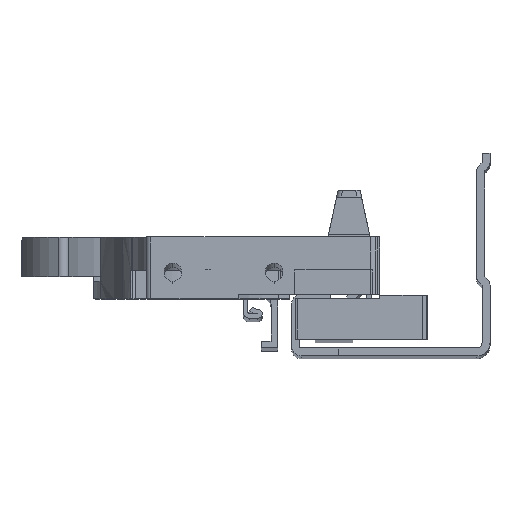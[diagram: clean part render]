
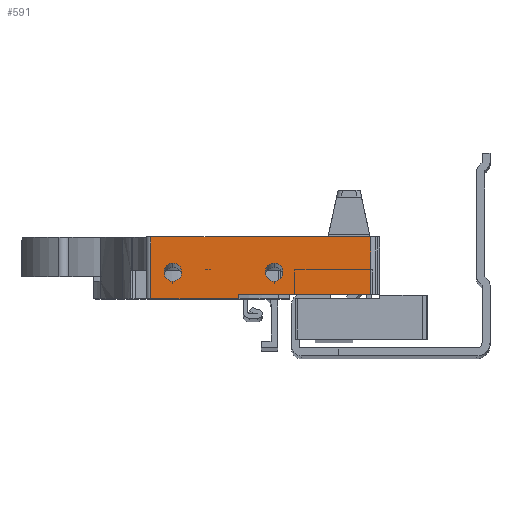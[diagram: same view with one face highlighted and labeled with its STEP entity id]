
A CAD part, top view. The second image highlights one B-rep face of the part: STEP entity #591.
In plain terms, the highlighted planar face has unit normal (0, 0, 1) as drawn and (0, -1, 0) by its records, which use the part's own axes.
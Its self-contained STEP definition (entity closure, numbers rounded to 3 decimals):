
#25 = EDGE_CURVE ( 'NONE', #13096, #6609, #15252, .T. ) ;
#339 = ORIENTED_EDGE ( 'NONE', *, *, #8084, .T. ) ;
#591 = ADVANCED_FACE ( 'NONE', ( #10625, #3837, #9348 ), #16149, .T. ) ;
#919 = EDGE_CURVE ( 'NONE', #6646, #6741, #3228, .T. ) ;
#984 = ORIENTED_EDGE ( 'NONE', *, *, #16730, .T. ) ;
#1433 = ORIENTED_EDGE ( 'NONE', *, *, #14022, .T. ) ;
#1455 = CARTESIAN_POINT ( 'NONE',  ( 176.866, 93.984, 0. ) ) ;
#1991 = VECTOR ( 'NONE', #16680, 1000. ) ;
#2100 = VERTEX_POINT ( 'NONE', #16092 ) ;
#2241 = EDGE_CURVE ( 'NONE', #9613, #6741, #16446, .T. ) ;
#2455 = CARTESIAN_POINT ( 'NONE',  ( 154.987, 93.984, -5.929 ) ) ;
#2621 = CARTESIAN_POINT ( 'NONE',  ( 154.987, 93.984, -5.929 ) ) ;
#3143 = ORIENTED_EDGE ( 'NONE', *, *, #12735, .T. ) ;
#3176 = LINE ( 'NONE', #15469, #14714 ) ;
#3196 = CARTESIAN_POINT ( 'NONE',  ( 126.987, 93.984, -14. ) ) ;
#3228 = LINE ( 'NONE', #14543, #17308 ) ;
#3587 =( BOUNDED_CURVE ( )  B_SPLINE_CURVE ( 3, ( #14663, #6601, #16358, #2621 ),
 .UNSPECIFIED., .F., .F. ) 
 B_SPLINE_CURVE_WITH_KNOTS ( ( 4, 4 ),
 ( 0., 3.142 ),
 .UNSPECIFIED. ) 
 CURVE ( )  GEOMETRIC_REPRESENTATION_ITEM ( )  RATIONAL_B_SPLINE_CURVE ( ( 1., 0.333, 0.333, 1. ) ) 
 REPRESENTATION_ITEM ( '' )  );
#3636 = CARTESIAN_POINT ( 'NONE',  ( 131.987, 93.984, -5.929 ) ) ;
#3837 = FACE_BOUND ( 'NONE', #10166, .T. ) ;
#4052 =( BOUNDED_CURVE ( )  B_SPLINE_CURVE ( 3, ( #3636, #6342, #11688, #13145 ),
 .UNSPECIFIED., .F., .F. ) 
 B_SPLINE_CURVE_WITH_KNOTS ( ( 4, 4 ),
 ( 3.142, 6.283 ),
 .UNSPECIFIED. ) 
 CURVE ( )  GEOMETRIC_REPRESENTATION_ITEM ( )  RATIONAL_B_SPLINE_CURVE ( ( 1., 0.333, 0.333, 1. ) ) 
 REPRESENTATION_ITEM ( '' )  );
#4166 = CARTESIAN_POINT ( 'NONE',  ( 131.987, 93.984, -5.929 ) ) ;
#5112 = CARTESIAN_POINT ( 'NONE',  ( 178.987, 93.984, -13. ) ) ;
#5326 = CARTESIAN_POINT ( 'NONE',  ( 154.987, 93.984, -10.071 ) ) ;
#5482 = DIRECTION ( 'NONE',  ( 1., 0., 0. ) ) ;
#5623 = LINE ( 'NONE', #11156, #1991 ) ;
#5855 = ORIENTED_EDGE ( 'NONE', *, *, #919, .F. ) ;
#6025 = VERTEX_POINT ( 'NONE', #17766 ) ;
#6342 = CARTESIAN_POINT ( 'NONE',  ( 135.987, 93.984, -5.929 ) ) ;
#6546 = DIRECTION ( 'NONE',  ( 0., 0., -1. ) ) ;
#6601 = CARTESIAN_POINT ( 'NONE',  ( 150.987, 93.984, -10.071 ) ) ;
#6609 = VERTEX_POINT ( 'NONE', #15455 ) ;
#6646 = VERTEX_POINT ( 'NONE', #17362 ) ;
#6741 = VERTEX_POINT ( 'NONE', #11843 ) ;
#7645 = EDGE_LOOP ( 'NONE', ( #5855, #14456, #984, #17000, #12002, #9344 ) ) ;
#8024 = EDGE_LOOP ( 'NONE', ( #339, #12198 ) ) ;
#8084 = EDGE_CURVE ( 'NONE', #6609, #13096, #4052, .T. ) ;
#8337 = VECTOR ( 'NONE', #14232, 1000. ) ;
#9049 = AXIS2_PLACEMENT_3D ( 'NONE', #14791, #13434, #6546 ) ;
#9242 = CARTESIAN_POINT ( 'NONE',  ( 131.987, 93.984, -10.071 ) ) ;
#9344 = ORIENTED_EDGE ( 'NONE', *, *, #2241, .T. ) ;
#9348 = FACE_BOUND ( 'NONE', #8024, .T. ) ;
#9505 = CARTESIAN_POINT ( 'NONE',  ( 154.987, 93.984, -10.071 ) ) ;
#9506 = CARTESIAN_POINT ( 'NONE',  ( 127.987, 93.984, -10.071 ) ) ;
#9613 = VERTEX_POINT ( 'NONE', #14473 ) ;
#10166 = EDGE_LOOP ( 'NONE', ( #3143, #1433 ) ) ;
#10216 = DIRECTION ( 'NONE',  ( 1., 0., 0. ) ) ;
#10625 = FACE_OUTER_BOUND ( 'NONE', #7645, .T. ) ;
#10992 = VERTEX_POINT ( 'NONE', #15924 ) ;
#11156 = CARTESIAN_POINT ( 'NONE',  ( 176.866, 93.984, -14. ) ) ;
#11228 = CARTESIAN_POINT ( 'NONE',  ( 127.987, 93.984, -5.929 ) ) ;
#11688 = CARTESIAN_POINT ( 'NONE',  ( 135.987, 93.984, -10.071 ) ) ;
#11843 = CARTESIAN_POINT ( 'NONE',  ( 146.856, 93.984, -14. ) ) ;
#12002 = ORIENTED_EDGE ( 'NONE', *, *, #16854, .F. ) ;
#12146 =( BOUNDED_CURVE ( )  B_SPLINE_CURVE ( 3, ( #2455, #13404, #17735, #5326 ),
 .UNSPECIFIED., .F., .F. ) 
 B_SPLINE_CURVE_WITH_KNOTS ( ( 4, 4 ),
 ( 3.142, 6.283 ),
 .UNSPECIFIED. ) 
 CURVE ( )  GEOMETRIC_REPRESENTATION_ITEM ( )  RATIONAL_B_SPLINE_CURVE ( ( 1., 0.333, 0.333, 1. ) ) 
 REPRESENTATION_ITEM ( '' )  );
#12198 = ORIENTED_EDGE ( 'NONE', *, *, #25, .T. ) ;
#12361 = DIRECTION ( 'NONE',  ( -1., 0., 0. ) ) ;
#12735 = EDGE_CURVE ( 'NONE', #2100, #12777, #12146, .T. ) ;
#12777 = VERTEX_POINT ( 'NONE', #9505 ) ;
#12960 = VERTEX_POINT ( 'NONE', #1455 ) ;
#13096 = VERTEX_POINT ( 'NONE', #16895 ) ;
#13145 = CARTESIAN_POINT ( 'NONE',  ( 131.987, 93.984, -10.071 ) ) ;
#13404 = CARTESIAN_POINT ( 'NONE',  ( 158.987, 93.984, -5.929 ) ) ;
#13434 = DIRECTION ( 'NONE',  ( 0., -1., 0. ) ) ;
#14022 = EDGE_CURVE ( 'NONE', #12777, #2100, #3587, .T. ) ;
#14232 = DIRECTION ( 'NONE',  ( 0., 0., 1. ) ) ;
#14402 = VECTOR ( 'NONE', #12361, 1000. ) ;
#14456 = ORIENTED_EDGE ( 'NONE', *, *, #15984, .F. ) ;
#14473 = CARTESIAN_POINT ( 'NONE',  ( 126.987, 93.984, -14. ) ) ;
#14543 = CARTESIAN_POINT ( 'NONE',  ( 146.856, 93.984, -13. ) ) ;
#14663 = CARTESIAN_POINT ( 'NONE',  ( 154.987, 93.984, -10.071 ) ) ;
#14714 = VECTOR ( 'NONE', #10216, 1000. ) ;
#14791 = CARTESIAN_POINT ( 'NONE',  ( 0., 93.984, -14. ) ) ;
#15085 = CARTESIAN_POINT ( 'NONE',  ( 0., 93.984, -14. ) ) ;
#15252 =( BOUNDED_CURVE ( )  B_SPLINE_CURVE ( 3, ( #9242, #9506, #11228, #4166 ),
 .UNSPECIFIED., .F., .F. ) 
 B_SPLINE_CURVE_WITH_KNOTS ( ( 4, 4 ),
 ( 0., 3.142 ),
 .UNSPECIFIED. ) 
 CURVE ( )  GEOMETRIC_REPRESENTATION_ITEM ( )  RATIONAL_B_SPLINE_CURVE ( ( 1., 0.333, 0.333, 1. ) ) 
 REPRESENTATION_ITEM ( '' )  );
#15455 = CARTESIAN_POINT ( 'NONE',  ( 131.987, 93.984, -5.929 ) ) ;
#15469 = CARTESIAN_POINT ( 'NONE',  ( 0., 93.984, 0. ) ) ;
#15583 = LINE ( 'NONE', #3196, #8337 ) ;
#15924 = CARTESIAN_POINT ( 'NONE',  ( 176.866, 93.984, -13. ) ) ;
#15984 = EDGE_CURVE ( 'NONE', #10992, #6646, #17876, .T. ) ;
#16092 = CARTESIAN_POINT ( 'NONE',  ( 154.987, 93.984, -5.929 ) ) ;
#16149 = PLANE ( 'NONE',  #9049 ) ;
#16358 = CARTESIAN_POINT ( 'NONE',  ( 150.987, 93.984, -5.929 ) ) ;
#16446 = LINE ( 'NONE', #15085, #16684 ) ;
#16680 = DIRECTION ( 'NONE',  ( 0., 0., 1. ) ) ;
#16684 = VECTOR ( 'NONE', #5482, 1000. ) ;
#16730 = EDGE_CURVE ( 'NONE', #10992, #12960, #5623, .T. ) ;
#16854 = EDGE_CURVE ( 'NONE', #9613, #6025, #15583, .T. ) ;
#16895 = CARTESIAN_POINT ( 'NONE',  ( 131.987, 93.984, -10.071 ) ) ;
#17000 = ORIENTED_EDGE ( 'NONE', *, *, #17123, .F. ) ;
#17123 = EDGE_CURVE ( 'NONE', #6025, #12960, #3176, .T. ) ;
#17155 = DIRECTION ( 'NONE',  ( 0., 0., -1. ) ) ;
#17308 = VECTOR ( 'NONE', #17155, 1000. ) ;
#17362 = CARTESIAN_POINT ( 'NONE',  ( 146.856, 93.984, -13. ) ) ;
#17735 = CARTESIAN_POINT ( 'NONE',  ( 158.987, 93.984, -10.071 ) ) ;
#17766 = CARTESIAN_POINT ( 'NONE',  ( 126.987, 93.984, 0. ) ) ;
#17876 = LINE ( 'NONE', #5112, #14402 ) ;
